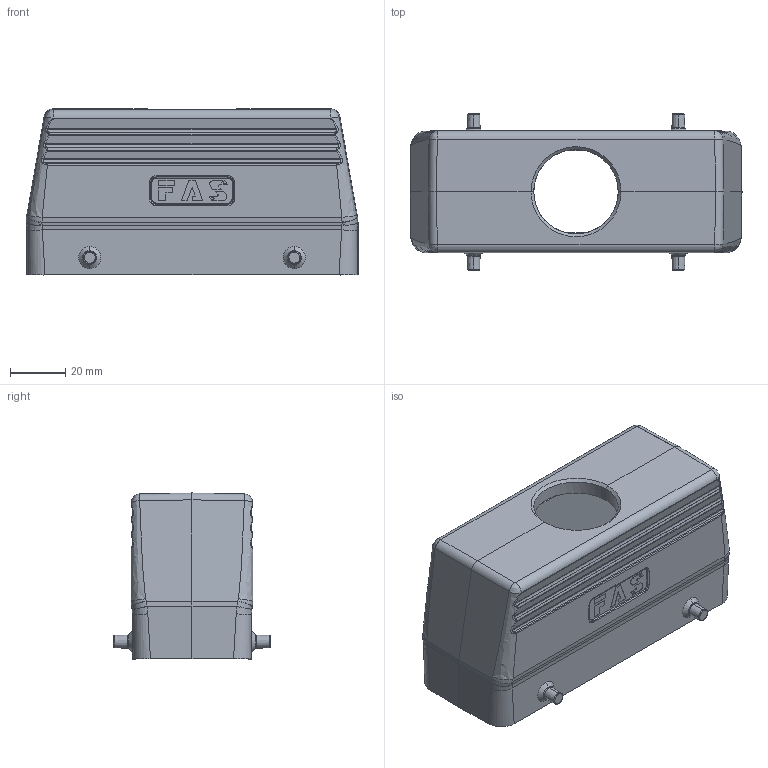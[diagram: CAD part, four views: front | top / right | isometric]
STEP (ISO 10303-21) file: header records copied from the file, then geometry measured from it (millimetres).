
FILE_DESCRIPTION (( 'STEP AP203' ), '1' );
FILE_NAME ('H24B-TG-M25&32.STEP', '2020-11-21T06:02:45', ( '' ), ( '' ), 'SwSTEP 2.0', 'SolidWorks 2016', '' );
FILE_SCHEMA (( 'CONFIG_CONTROL_DESIGN' ));
Length unit declared in the file: millimetre
Products named in the file (1): H24B-TG-M25&32
Bounding box: 120 x 56.4 x 60 mm (x, y, z)
Volume: 88474.8 mm3; surface area: 42404.2 mm2
Topology: 1 solids, 1 shells, 528 faces, 1289 edges, 790 vertices
Faces by surface type: plane 171, bspline 164, cylinder 145, cone 48
Entity records: 24488 total; most frequent: CARTESIAN_POINT 13412, ORIENTED_EDGE 2578, DIRECTION 1882, EDGE_CURVE 1289, VERTEX_POINT 790, AXIS2_PLACEMENT_3D 663, EDGE_LOOP 557, LINE 556
